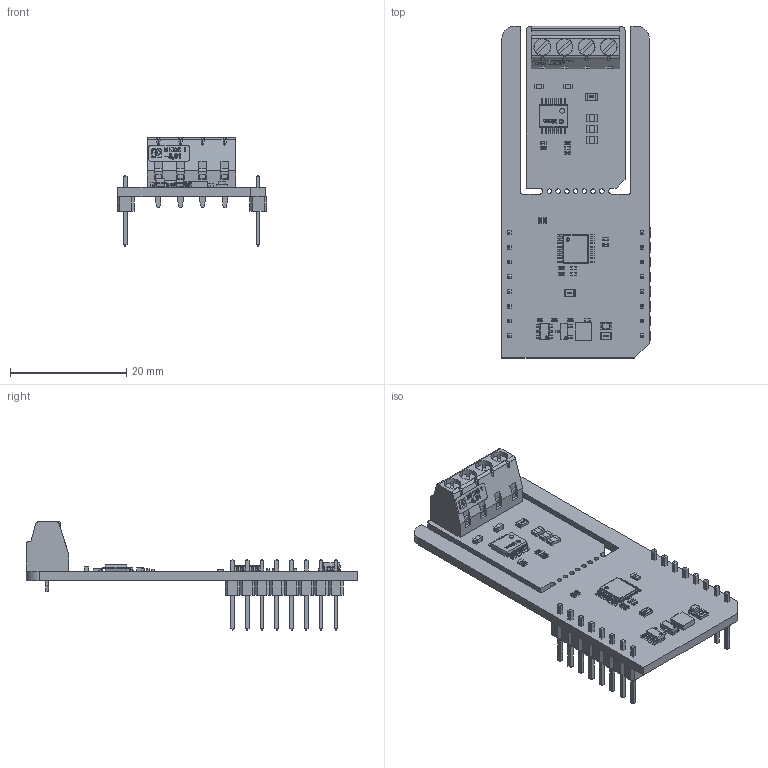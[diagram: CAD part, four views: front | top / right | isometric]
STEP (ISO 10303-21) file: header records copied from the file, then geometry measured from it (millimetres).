
FILE_DESCRIPTION(('Open CASCADE Model'),'2;1');
FILE_NAME('Open CASCADE Shape Model','2026-04-08T14:34:11',('Author'),( 'Open CASCADE'),'Open CASCADE STEP processor 7.5','Open CASCADE 7.5' ,'Unknown');
FILE_SCHEMA(('AUTOMOTIVE_DESIGN { 1 0 10303 214 1 1 1 1 }'));
Length unit declared in the file: millimetre
Products named in the file (68): PCB; Board; Open CASCADE STEP translator 7.5 1.1.1; JP1; User Library-R_0805; MBD1; Header 1x8; Free-Models; 1240637040; User_Library-PinHeaderX5-1_PinHeaderX5_Body_1; User_Library-PinHeaderX5-1_PinHeaderX5_Pins_1; U2; User Library-SOT23-6-2; U1; 8225059248; Extruded; Q1; SOT23-3; R4; User Library-R_0402; C1; User Library-SMD CAPACITOR0402; R2; LD1; led_0805_green; R1; R3; C2; User Library-SMD CAPACITOR0805; C3; C4; C8; C9; User Library-SMD CAPACITOR0603; C10; JP2; R5; R6; R7; R8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
Assembly tree (89 placements, depth 7):
  PCB
    Board
      Open CASCADE STEP translator 7.5 1.1.1
    JP1
      User Library-R_0805
    MBD1
      Header 1x8  x2
        PCB
          Free-Models
            1240637040  x2
              User_Library-PinHeaderX5-1_PinHeaderX5_Body_1
              User_Library-PinHeaderX5-1_PinHeaderX5_Pins_1
    U2
      User Library-SOT23-6-2
    U1
      8225059248
        Extruded
    Q1
      SOT23-3
    R4
      User Library-R_0402
    C1
      User Library-SMD CAPACITOR0402
    R2
      User Library-R_0402
    LD1
      led_0805_green
    R1
      User Library-R_0805
    R3
      User Library-R_0402
    C2
      User Library-SMD CAPACITOR0805
    C3
      User Library-SMD CAPACITOR0805
    C4
      User Library-SMD CAPACITOR0805
    C8
      User Library-SMD CAPACITOR0402
    C9
      User Library-SMD CAPACITOR0603
    C10
      User Library-SMD CAPACITOR0603
    JP2
      User Library-R_0805
    R5
      User Library-R_0402
    R6
      User Library-R_0402
    R7
      User Library-R_0402
    R8
      User Library-R_0402
    R9
      User Library-R_0402
    TB1
      1727036
        Open CASCADE STEP translator 7.5 1.25.1.1
        Open CASCADE STEP translator 7.5 1.25.1.2
        Open CASCADE STEP translator 7.5 1.25.1.3
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Bounding box: 25.78 x 57.15 x 18.64 mm (x, y, z)
Volume: 3317.5 mm3; surface area: 6823.2 mm2
Topology: 122 solids, 122 shells, 3895 faces, 9980 edges, 6358 vertices
Faces by surface type: plane 2754, cylinder 601, bspline 418, sphere 122
Full cylindrical faces by diameter (mm): 0.107 x1, 0.219 x1, 0.8 x9
Entity records: 93588 total; most frequent: CARTESIAN_POINT 19854, ORIENTED_EDGE 11452, DIRECTION 10543, EDGE_CURVE 5726, LINE 4493, VECTOR 4493, VERTEX_POINT 3706, PRESENTATION_STYLE_ASSIGNMENT 3596
